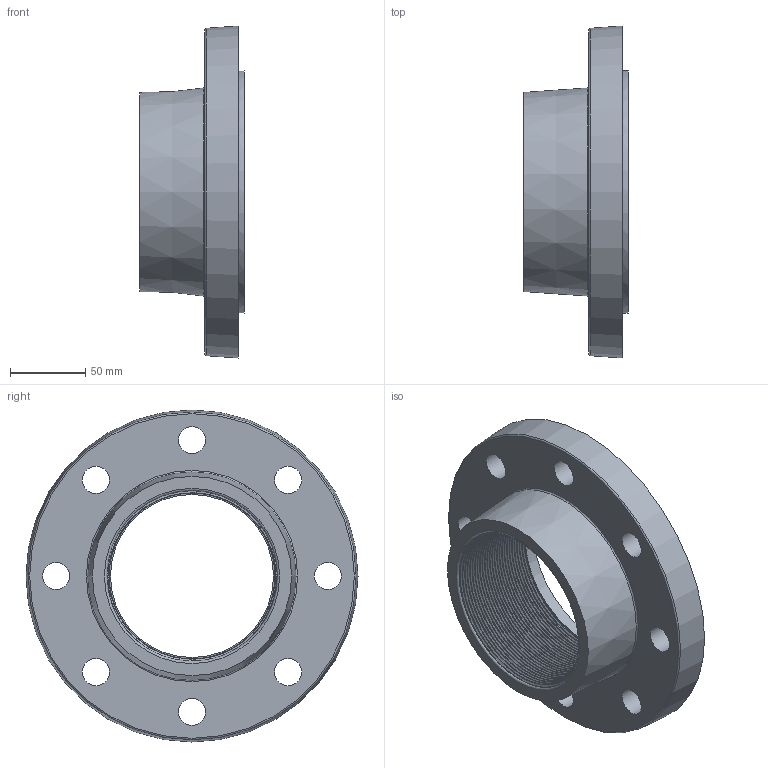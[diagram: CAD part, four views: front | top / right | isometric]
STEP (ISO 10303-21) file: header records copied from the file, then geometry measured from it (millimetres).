
FILE_DESCRIPTION(/* description */ (''),/* implementation_level */ '2;1');
FILE_NAME(/* name */ 'C:\Users\Gabriele\Desktop\disegni 3D\FF01\FF011100.ipt.stp',/* time_stamp */ '2017-01-25T17:54:21+01:00',/* author */ ('Gabriele'),/* organization */ (''),/* preprocessor_version */ 'ST-DEVELOPER v16.5',/* originating_system */ 'Autodesk Inventor 2017',/* authorisation */ '');
FILE_SCHEMA (('AUTOMOTIVE_DESIGN { 1 0 10303 214 3 1 1 }'));
Length unit declared in the file: millimetre
Products named in the file (1): FF011100
Bounding box: 69 x 220 x 220 mm (x, y, z)
Volume: 746250.6 mm3; surface area: 198140.8 mm2
Topology: 2 solids, 2 shells, 803 faces, 1703 edges, 937 vertices
Faces by surface type: torus 315, cylinder 291, sphere 112, plane 77, bspline 6, cone 2
Full cylindrical faces by diameter (mm): 18 x8, 108 x1, 113.03 x2, 115.571 x1, 123.143 x1, 130.714 x1, 138.286 x1, 145.857 x1, 153.429 x1, 161 x1
Entity records: 33353 total; most frequent: CARTESIAN_POINT 15588, DIRECTION 4420, ORIENTED_EDGE 3310, AXIS2_PLACEMENT_3D 2026, EDGE_CURVE 1655, CIRCLE 1228, VERTEX_POINT 920, EDGE_LOOP 887
